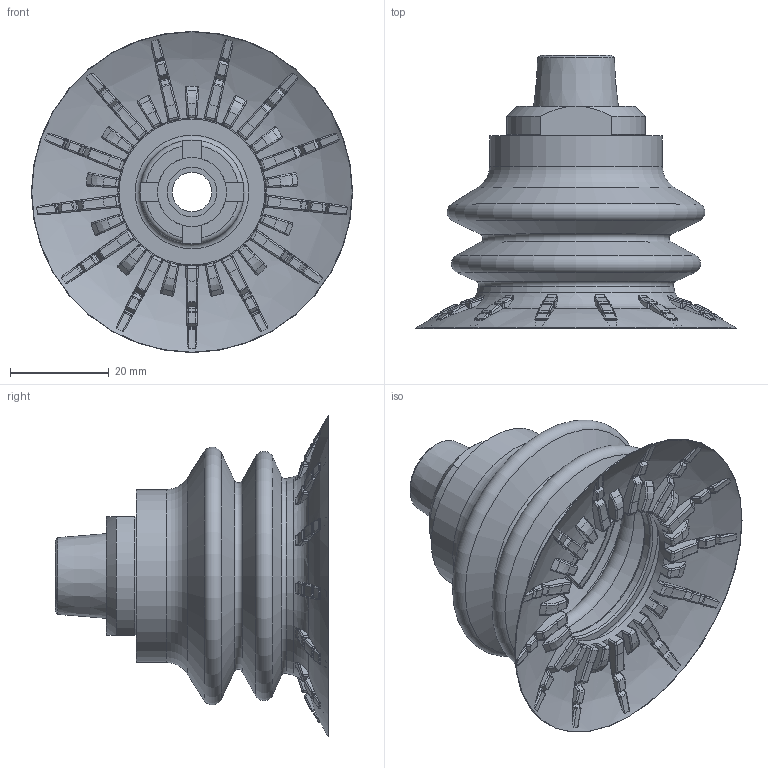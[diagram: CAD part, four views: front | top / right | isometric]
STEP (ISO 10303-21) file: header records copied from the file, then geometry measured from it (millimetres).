
FILE_DESCRIPTION (( 'STEP AP214' ), '1' );
FILE_NAME ('MB65P-3060T-38MS.STEP', '2026-05-27T20:12:51', ( '' ), ( '' ), 'SwSTEP 2.0', 'SolidWorks 2025', '' );
FILE_SCHEMA (( 'AUTOMOTIVE_DESIGN' ));
Length unit declared in the file: inch
Products named in the file (3): 403.012; MB65P-3060T-38MS; MB65P-3060T
Assembly tree (2 placements, depth 2):
  MB65P-3060T-38MS
    403.012
    MB65P-3060T
Bounding box: 65 x 55.37 x 65 mm (x, y, z)
Volume: 27792.4 mm3; surface area: 24283.1 mm2
Topology: 2 solids, 2 shells, 1995 faces, 4693 edges, 2712 vertices
Faces by surface type: bspline 812, plane 302, cylinder 261, torus 252, sphere 236, cone 132
Full cylindrical faces by diameter (mm): 8 x1, 10.5 x1, 12.5 x1, 14 x1, 21 x1, 30 x1, 31 x1, 35 x1, 36 x1
Entity records: 71353 total; most frequent: CARTESIAN_POINT 32461, ORIENTED_EDGE 9218, DIRECTION 6704, EDGE_CURVE 4609, AXIS2_PLACEMENT_3D 3102, VERTEX_POINT 2698, B_SPLINE_CURVE_WITH_KNOTS 2143, EDGE_LOOP 2079
